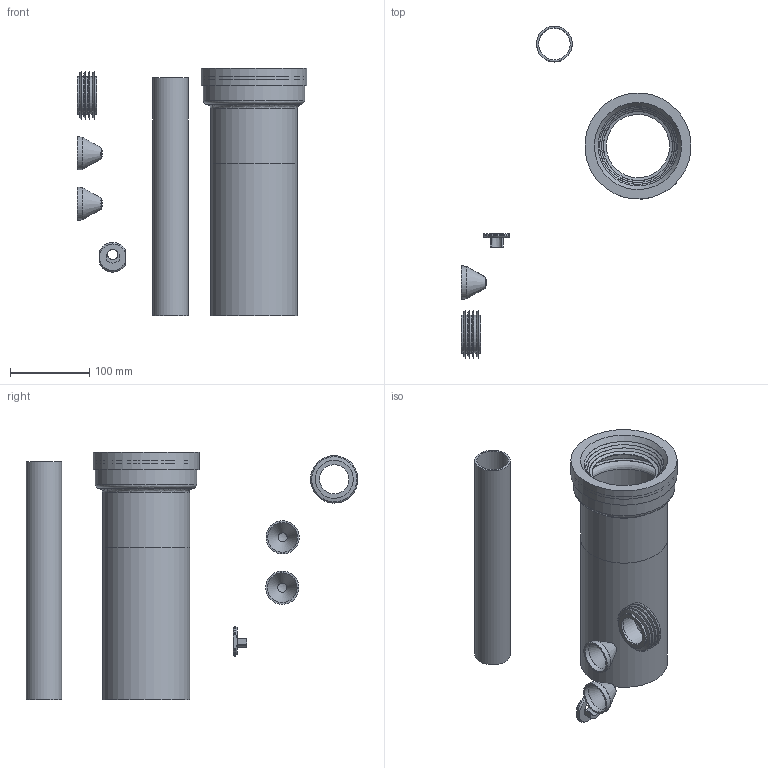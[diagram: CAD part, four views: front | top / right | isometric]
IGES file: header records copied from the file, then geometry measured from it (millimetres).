
Global section: file name: 152439; native system: Autodesk Inventor 2014; preprocessor: unknown; author: Marco; date: 20131029.134335; units: millimetre
Bounding box: 290.01 x 418.81 x 312 mm (x, y, z)
Volume: 655456.7 mm3; surface area: 377787.9 mm2
Topology: 9 solids, 9 shells, 123 faces, 282 edges, 195 vertices
Faces by surface type: plane 46, revolution 37, cone 21, cylinder 17, sphere 2
Full cylindrical faces by diameter (mm): 45 x1, 48 x5, 110 x2, 128 x1, 132 x1, 134 x1
